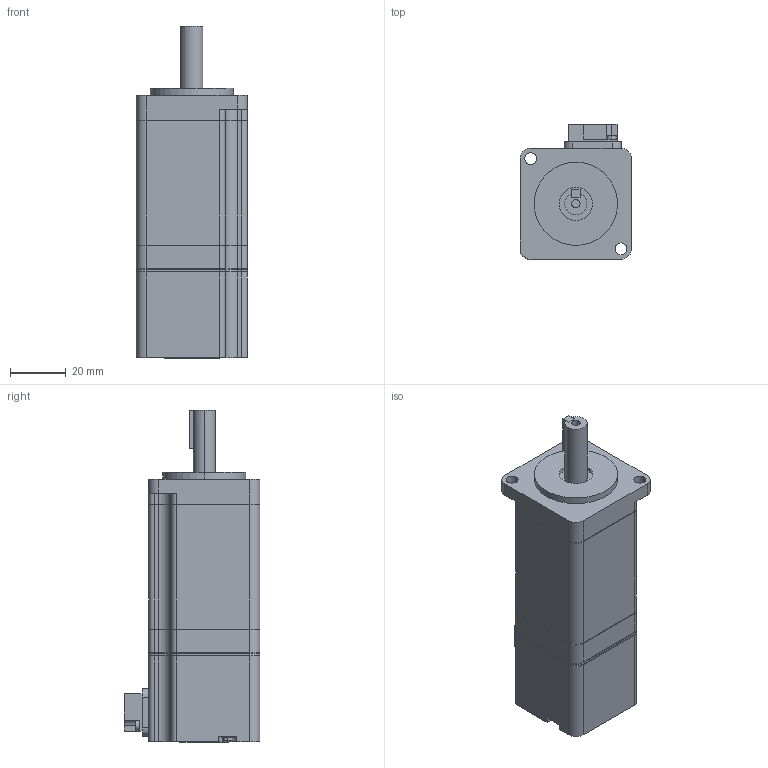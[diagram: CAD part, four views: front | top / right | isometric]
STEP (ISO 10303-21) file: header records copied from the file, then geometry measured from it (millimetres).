
FILE_DESCRIPTION (( 'STEP AP203' ), '1' );
FILE_NAME ('sgmav_c2a_a61.STEP', '2008-06-10T12:01:47', ( 'T' ), ( 'T' ), 'SwSTEP 2.0', 'SolidWorks 2006052', '' );
FILE_SCHEMA (( 'CONFIG_CONTROL_DESIGN' ));
Length unit declared in the file: millimetre
Products named in the file (3): sgmav_c2a_a61; sgmav_c2a_a61_base; sgmav_c2a_a61_key
Assembly tree (2 placements, depth 2):
  sgmav_c2a_a61
    sgmav_c2a_a61_key
    sgmav_c2a_a61_base
Bounding box: 40.1 x 48.8 x 119.6 mm (x, y, z)
Volume: 143407 mm3; surface area: 20117.4 mm2
Topology: 2 solids, 2 shells, 287 faces, 756 edges, 504 vertices
Faces by surface type: plane 166, cylinder 121
Entity records: 9246 total; most frequent: CARTESIAN_POINT 1582, DIRECTION 1577, ORIENTED_EDGE 1512, EDGE_CURVE 756, AXIS2_PLACEMENT_3D 533, VECTOR 511, LINE 511, VERTEX_POINT 504
